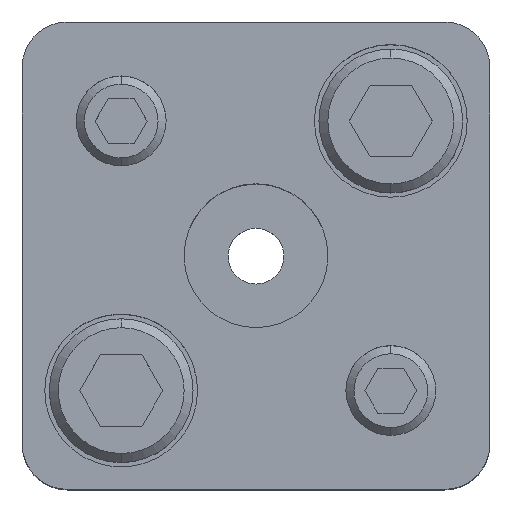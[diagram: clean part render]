
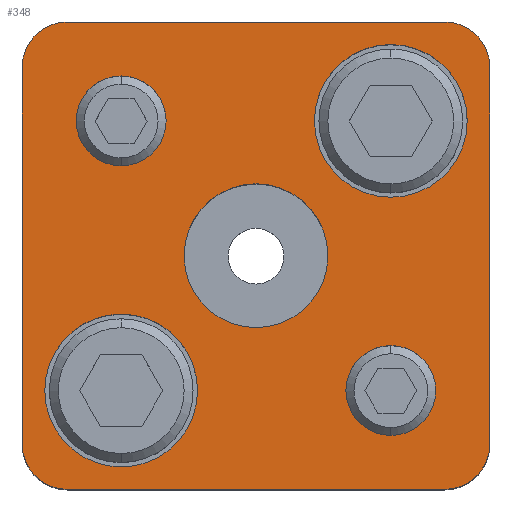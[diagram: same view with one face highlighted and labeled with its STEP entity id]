
A CAD part, top view. The second image highlights one B-rep face of the part: STEP entity #348.
In plain terms, the highlighted planar face has unit normal (0, 0, 1).
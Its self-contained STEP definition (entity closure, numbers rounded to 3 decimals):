
#173=PLANE('',#2995);
#248=FACE_BOUND('',#745,.T.);
#249=FACE_BOUND('',#746,.T.);
#250=FACE_BOUND('',#747,.T.);
#251=FACE_BOUND('',#748,.T.);
#252=FACE_BOUND('',#749,.T.);
#253=FACE_BOUND('',#750,.T.);
#348=ADVANCED_FACE('',(#248,#249,#250,#251,#252,#253),#173,.T.);
#745=EDGE_LOOP('',(#1597,#1598,#1599,#1600,#1601,#1602,#1603,#1604));
#746=EDGE_LOOP('',(#1605,#1606));
#747=EDGE_LOOP('',(#1607,#1608));
#748=EDGE_LOOP('',(#1609,#1610));
#749=EDGE_LOOP('',(#1611,#1612));
#750=EDGE_LOOP('',(#1613,#1614));
#934=LINE('',#4430,#1142);
#935=LINE('',#4434,#1143);
#936=LINE('',#4438,#1144);
#937=LINE('',#4442,#1145);
#1142=VECTOR('',#3559,1.);
#1143=VECTOR('',#3562,1.);
#1144=VECTOR('',#3565,1.);
#1145=VECTOR('',#3568,1.);
#1597=ORIENTED_EDGE('',*,*,#2454,.T.);
#1598=ORIENTED_EDGE('',*,*,#2455,.T.);
#1599=ORIENTED_EDGE('',*,*,#2456,.T.);
#1600=ORIENTED_EDGE('',*,*,#2457,.T.);
#1601=ORIENTED_EDGE('',*,*,#2458,.T.);
#1602=ORIENTED_EDGE('',*,*,#2459,.T.);
#1603=ORIENTED_EDGE('',*,*,#2460,.T.);
#1604=ORIENTED_EDGE('',*,*,#2461,.T.);
#1605=ORIENTED_EDGE('',*,*,#2462,.F.);
#1606=ORIENTED_EDGE('',*,*,#2463,.F.);
#1607=ORIENTED_EDGE('',*,*,#2464,.F.);
#1608=ORIENTED_EDGE('',*,*,#2465,.F.);
#1609=ORIENTED_EDGE('',*,*,#2440,.F.);
#1610=ORIENTED_EDGE('',*,*,#2436,.F.);
#1611=ORIENTED_EDGE('',*,*,#2434,.F.);
#1612=ORIENTED_EDGE('',*,*,#2430,.F.);
#1613=ORIENTED_EDGE('',*,*,#2466,.T.);
#1614=ORIENTED_EDGE('',*,*,#2467,.T.);
#2135=VERTEX_POINT('',#4378);
#2136=VERTEX_POINT('',#4379);
#2139=VERTEX_POINT('',#4391);
#2140=VERTEX_POINT('',#4392);
#2151=VERTEX_POINT('',#4428);
#2152=VERTEX_POINT('',#4429);
#2153=VERTEX_POINT('',#4431);
#2154=VERTEX_POINT('',#4433);
#2155=VERTEX_POINT('',#4435);
#2156=VERTEX_POINT('',#4437);
#2157=VERTEX_POINT('',#4439);
#2158=VERTEX_POINT('',#4441);
#2159=VERTEX_POINT('',#4444);
#2160=VERTEX_POINT('',#4445);
#2161=VERTEX_POINT('',#4448);
#2162=VERTEX_POINT('',#4449);
#2163=VERTEX_POINT('',#4452);
#2164=VERTEX_POINT('',#4453);
#2430=EDGE_CURVE('',#2135,#2136,#2735,.T.);
#2434=EDGE_CURVE('',#2136,#2135,#2737,.T.);
#2436=EDGE_CURVE('',#2139,#2140,#2739,.T.);
#2440=EDGE_CURVE('',#2140,#2139,#2741,.T.);
#2454=EDGE_CURVE('',#2151,#2152,#2751,.T.);
#2455=EDGE_CURVE('',#2152,#2153,#934,.T.);
#2456=EDGE_CURVE('',#2153,#2154,#2752,.T.);
#2457=EDGE_CURVE('',#2154,#2155,#935,.T.);
#2458=EDGE_CURVE('',#2155,#2156,#2753,.T.);
#2459=EDGE_CURVE('',#2156,#2157,#936,.T.);
#2460=EDGE_CURVE('',#2157,#2158,#2754,.T.);
#2461=EDGE_CURVE('',#2158,#2151,#937,.T.);
#2462=EDGE_CURVE('',#2159,#2160,#2755,.T.);
#2463=EDGE_CURVE('',#2160,#2159,#2756,.T.);
#2464=EDGE_CURVE('',#2161,#2162,#2757,.T.);
#2465=EDGE_CURVE('',#2162,#2161,#2758,.T.);
#2466=EDGE_CURVE('',#2163,#2164,#2759,.T.);
#2467=EDGE_CURVE('',#2164,#2163,#2760,.T.);
#2735=CIRCLE('',#2959,5.);
#2737=CIRCLE('',#2962,5.);
#2739=CIRCLE('',#2966,5.);
#2741=CIRCLE('',#2969,5.);
#2751=CIRCLE('',#2985,5.);
#2752=CIRCLE('',#2986,5.);
#2753=CIRCLE('',#2987,5.);
#2754=CIRCLE('',#2988,5.);
#2755=CIRCLE('',#2989,8.5);
#2756=CIRCLE('',#2990,8.5);
#2757=CIRCLE('',#2991,8.5);
#2758=CIRCLE('',#2992,8.5);
#2759=CIRCLE('',#2993,8.);
#2760=CIRCLE('',#2994,8.);
#2959=AXIS2_PLACEMENT_3D('',#4377,#3497,#3498);
#2962=AXIS2_PLACEMENT_3D('',#4386,#3505,#3506);
#2966=AXIS2_PLACEMENT_3D('',#4390,#3513,#3514);
#2969=AXIS2_PLACEMENT_3D('',#4399,#3521,#3522);
#2985=AXIS2_PLACEMENT_3D('',#4427,#3557,#3558);
#2986=AXIS2_PLACEMENT_3D('',#4432,#3560,#3561);
#2987=AXIS2_PLACEMENT_3D('',#4436,#3563,#3564);
#2988=AXIS2_PLACEMENT_3D('',#4440,#3566,#3567);
#2989=AXIS2_PLACEMENT_3D('',#4443,#3569,#3570);
#2990=AXIS2_PLACEMENT_3D('',#4446,#3571,#3572);
#2991=AXIS2_PLACEMENT_3D('',#4447,#3573,#3574);
#2992=AXIS2_PLACEMENT_3D('',#4450,#3575,#3576);
#2993=AXIS2_PLACEMENT_3D('',#4451,#3577,#3578);
#2994=AXIS2_PLACEMENT_3D('',#4454,#3579,#3580);
#2995=AXIS2_PLACEMENT_3D('',#4455,#3581,#3582);
#3497=DIRECTION('',(0.,0.,1.));
#3498=DIRECTION('',(-1.,0.,0.));
#3505=DIRECTION('',(0.,0.,1.));
#3506=DIRECTION('',(1.,0.,0.));
#3513=DIRECTION('',(0.,0.,1.));
#3514=DIRECTION('',(-1.,0.,0.));
#3521=DIRECTION('',(0.,0.,1.));
#3522=DIRECTION('',(1.,0.,0.));
#3557=DIRECTION('',(0.,0.,1.));
#3558=DIRECTION('',(-0.707,0.707,0.));
#3559=DIRECTION('',(0.,1.,0.));
#3560=DIRECTION('',(0.,0.,1.));
#3561=DIRECTION('',(-0.707,-0.707,0.));
#3562=DIRECTION('',(-1.,0.,0.));
#3563=DIRECTION('',(0.,0.,1.));
#3564=DIRECTION('',(0.707,-0.707,0.));
#3565=DIRECTION('',(0.,-1.,0.));
#3566=DIRECTION('',(0.,0.,1.));
#3567=DIRECTION('',(0.707,0.707,0.));
#3568=DIRECTION('',(1.,0.,0.));
#3569=DIRECTION('',(0.,0.,1.));
#3570=DIRECTION('',(1.,0.,0.));
#3571=DIRECTION('',(0.,0.,1.));
#3572=DIRECTION('',(-1.,0.,0.));
#3573=DIRECTION('',(0.,0.,1.));
#3574=DIRECTION('',(1.,0.,0.));
#3575=DIRECTION('',(0.,0.,1.));
#3576=DIRECTION('',(-1.,0.,0.));
#3577=DIRECTION('',(0.,0.,-1.));
#3578=DIRECTION('',(-1.,0.,0.));
#3579=DIRECTION('',(0.,0.,-1.));
#3580=DIRECTION('',(1.,0.,0.));
#3581=DIRECTION('',(0.,0.,1.));
#3582=DIRECTION('',(-1.,0.,0.));
#4377=CARTESIAN_POINT('',(15.,-15.,40.));
#4378=CARTESIAN_POINT('',(15.,-20.,40.));
#4379=CARTESIAN_POINT('',(15.,-10.,40.));
#4386=CARTESIAN_POINT('',(15.,-15.,40.));
#4390=CARTESIAN_POINT('',(-15.,15.,40.));
#4391=CARTESIAN_POINT('',(-15.,10.,40.));
#4392=CARTESIAN_POINT('',(-15.,20.,40.));
#4399=CARTESIAN_POINT('',(-15.,15.,40.));
#4427=CARTESIAN_POINT('',(21.,-21.,40.));
#4428=CARTESIAN_POINT('',(21.,-26.,40.));
#4429=CARTESIAN_POINT('',(26.,-21.,40.));
#4430=CARTESIAN_POINT('',(26.,21.,40.));
#4431=CARTESIAN_POINT('',(26.,21.,40.));
#4432=CARTESIAN_POINT('',(21.,21.,40.));
#4433=CARTESIAN_POINT('',(21.,26.,40.));
#4434=CARTESIAN_POINT('',(-21.,26.,40.));
#4435=CARTESIAN_POINT('',(-21.,26.,40.));
#4436=CARTESIAN_POINT('',(-21.,21.,40.));
#4437=CARTESIAN_POINT('',(-26.,21.,40.));
#4438=CARTESIAN_POINT('',(-26.,21.,40.));
#4439=CARTESIAN_POINT('',(-26.,-21.,40.));
#4440=CARTESIAN_POINT('',(-21.,-21.,40.));
#4441=CARTESIAN_POINT('',(-21.,-26.,40.));
#4442=CARTESIAN_POINT('',(-21.,-26.,40.));
#4443=CARTESIAN_POINT('',(15.,15.,40.));
#4444=CARTESIAN_POINT('',(15.,23.5,40.));
#4445=CARTESIAN_POINT('',(15.,6.5,40.));
#4446=CARTESIAN_POINT('',(15.,15.,40.));
#4447=CARTESIAN_POINT('',(-15.,-15.,40.));
#4448=CARTESIAN_POINT('',(-15.,-6.5,40.));
#4449=CARTESIAN_POINT('',(-15.,-23.5,40.));
#4450=CARTESIAN_POINT('',(-15.,-15.,40.));
#4451=CARTESIAN_POINT('',(0.,0.,40.));
#4452=CARTESIAN_POINT('',(0.,8.,40.));
#4453=CARTESIAN_POINT('',(0.,-8.,40.));
#4454=CARTESIAN_POINT('',(0.,0.,40.));
#4455=CARTESIAN_POINT('',(21.,-26.,40.));
